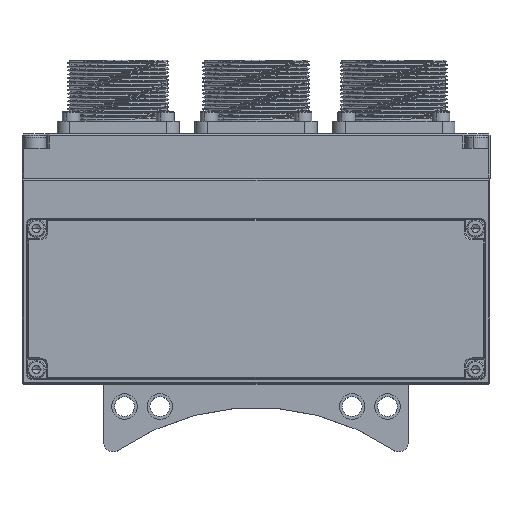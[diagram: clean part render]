
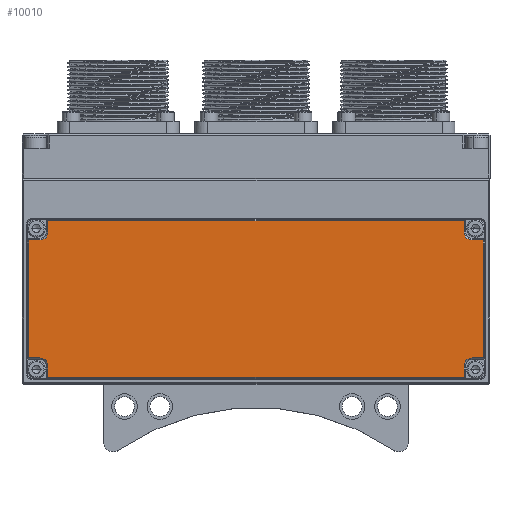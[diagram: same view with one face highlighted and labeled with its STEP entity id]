
A CAD part, top view. The second image highlights one B-rep face of the part: STEP entity #10010.
In plain terms, the highlighted planar face has unit normal (0, 0, 1).
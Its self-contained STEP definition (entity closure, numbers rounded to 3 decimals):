
#2144 = EDGE_CURVE ( 'NONE', #36055, #83214, #93600, .T. ) ;
#2352 = EDGE_CURVE ( 'NONE', #65843, #19593, #34446, .T. ) ;
#2982 = DIRECTION ( 'NONE',  ( -1., 0., 0. ) ) ;
#3405 = VECTOR ( 'NONE', #56512, 1000. ) ;
#3784 = VERTEX_POINT ( 'NONE', #63940 ) ;
#4144 = EDGE_CURVE ( 'NONE', #19593, #88438, #60435, .T. ) ;
#4613 = VECTOR ( 'NONE', #91970, 1000. ) ;
#6639 = CARTESIAN_POINT ( 'NONE',  ( 17.234, -4.882, 28. ) ) ;
#6796 = CARTESIAN_POINT ( 'NONE',  ( -118.566, 37.918, 28. ) ) ;
#8567 = VECTOR ( 'NONE', #20586, 1000. ) ;
#8722 = VECTOR ( 'NONE', #51270, 1000. ) ;
#8916 = CARTESIAN_POINT ( 'NONE',  ( -47.666, 37.918, 28. ) ) ;
#9422 = AXIS2_PLACEMENT_3D ( 'NONE', #36406, #52874, #86242 ) ;
#10010 = ADVANCED_FACE ( 'NONE', ( #87053 ), #61710, .F. ) ;
#10392 = EDGE_CURVE ( 'NONE', #83214, #19005, #42475, .T. ) ;
#12124 = EDGE_CURVE ( 'NONE', #88298, #71182, #49979, .T. ) ;
#12303 = AXIS2_PLACEMENT_3D ( 'NONE', #23748, #49060, #90126 ) ;
#12765 = ORIENTED_EDGE ( 'NONE', *, *, #97932, .T. ) ;
#13055 = ORIENTED_EDGE ( 'NONE', *, *, #58601, .T. ) ;
#16244 = EDGE_LOOP ( 'NONE', ( #26265, #72614, #84025, #13055, #64041, #35355, #92813, #12765, #18524, #51164, #28109, #100813, #63850, #35142, #22989, #20720 ) ) ;
#17145 = VECTOR ( 'NONE', #46261, 1000. ) ;
#17176 = CARTESIAN_POINT ( 'NONE',  ( 17.734, -4.882, 28. ) ) ;
#17214 = AXIS2_PLACEMENT_3D ( 'NONE', #87295, #78189, #53231 ) ;
#17749 = CARTESIAN_POINT ( 'NONE',  ( 19.734, 1.118, 28. ) ) ;
#17758 = CARTESIAN_POINT ( 'NONE',  ( -112.566, 43.918, 28. ) ) ;
#18524 = ORIENTED_EDGE ( 'NONE', *, *, #35432, .T. ) ;
#19005 = VERTEX_POINT ( 'NONE', #17758 ) ;
#19054 = CARTESIAN_POINT ( 'NONE',  ( 19.734, 40.418, 28. ) ) ;
#19593 = VERTEX_POINT ( 'NONE', #79576 ) ;
#20586 = DIRECTION ( 'NONE',  ( 1., 0., 0. ) ) ;
#20720 = ORIENTED_EDGE ( 'NONE', *, *, #31226, .T. ) ;
#22989 = ORIENTED_EDGE ( 'NONE', *, *, #10392, .T. ) ;
#23598 = VERTEX_POINT ( 'NONE', #65059 ) ;
#23748 = CARTESIAN_POINT ( 'NONE',  ( -115.066, -1.382, 28. ) ) ;
#24199 = DIRECTION ( 'NONE',  ( -1., 0., 0. ) ) ;
#24785 = CARTESIAN_POINT ( 'NONE',  ( 17.234, 40.418, 28. ) ) ;
#25429 = VECTOR ( 'NONE', #96864, 1000. ) ;
#26265 = ORIENTED_EDGE ( 'NONE', *, *, #12124, .T. ) ;
#28109 = ORIENTED_EDGE ( 'NONE', *, *, #31573, .T. ) ;
#28653 = EDGE_CURVE ( 'NONE', #71182, #35001, #77165, .T. ) ;
#30187 = CARTESIAN_POINT ( 'NONE',  ( 19.734, -1.382, 28. ) ) ;
#30287 = EDGE_CURVE ( 'NONE', #88438, #74490, #33639, .T. ) ;
#31226 = EDGE_CURVE ( 'NONE', #19005, #88298, #83310, .T. ) ;
#31573 = EDGE_CURVE ( 'NONE', #23598, #108576, #66147, .T. ) ;
#32043 = VECTOR ( 'NONE', #65724, 1000. ) ;
#33639 = LINE ( 'NONE', #17176, #8722 ) ;
#34446 = CIRCLE ( 'NONE', #12303, 2.5 ) ;
#35001 = VERTEX_POINT ( 'NONE', #6796 ) ;
#35142 = ORIENTED_EDGE ( 'NONE', *, *, #2144, .T. ) ;
#35355 = ORIENTED_EDGE ( 'NONE', *, *, #4144, .T. ) ;
#35432 = EDGE_CURVE ( 'NONE', #3784, #51824, #48338, .T. ) ;
#35605 = EDGE_CURVE ( 'NONE', #108576, #38315, #83850, .T. ) ;
#36055 = VERTEX_POINT ( 'NONE', #24785 ) ;
#36406 = CARTESIAN_POINT ( 'NONE',  ( -47.666, 19.518, 28. ) ) ;
#37044 = DIRECTION ( 'NONE',  ( 0., 0., -1. ) ) ;
#38315 = VERTEX_POINT ( 'NONE', #61823 ) ;
#39712 = CARTESIAN_POINT ( 'NONE',  ( 23.234, 38.418, 28. ) ) ;
#39993 = LINE ( 'NONE', #62442, #8567 ) ;
#41792 = DIRECTION ( 'NONE',  ( -1., 0., 0. ) ) ;
#42475 = LINE ( 'NONE', #66406, #47714 ) ;
#46261 = DIRECTION ( 'NONE',  ( 0., -1., 0. ) ) ;
#47714 = VECTOR ( 'NONE', #24199, 1000. ) ;
#48338 = CIRCLE ( 'NONE', #48346, 2.5 ) ;
#48346 = AXIS2_PLACEMENT_3D ( 'NONE', #30187, #88811, #97980 ) ;
#49060 = DIRECTION ( 'NONE',  ( 0., 0., -1. ) ) ;
#49836 = CARTESIAN_POINT ( 'NONE',  ( -47.666, 37.918, 28. ) ) ;
#49979 = CIRCLE ( 'NONE', #17214, 2.5 ) ;
#51164 = ORIENTED_EDGE ( 'NONE', *, *, #102863, .T. ) ;
#51270 = DIRECTION ( 'NONE',  ( 1., 0., 0. ) ) ;
#51824 = VERTEX_POINT ( 'NONE', #17749 ) ;
#52874 = DIRECTION ( 'NONE',  ( 0., 0., -1. ) ) ;
#53231 = DIRECTION ( 'NONE',  ( -1., 0., 0. ) ) ;
#53750 = CARTESIAN_POINT ( 'NONE',  ( 17.234, 19.518, 28. ) ) ;
#54505 = LINE ( 'NONE', #106729, #3405 ) ;
#56512 = DIRECTION ( 'NONE',  ( 0., -1., 0. ) ) ;
#57047 = VERTEX_POINT ( 'NONE', #97408 ) ;
#58601 = EDGE_CURVE ( 'NONE', #57047, #65843, #39993, .T. ) ;
#60435 = LINE ( 'NONE', #79982, #17145 ) ;
#61450 = CARTESIAN_POINT ( 'NONE',  ( -112.566, 40.418, 28. ) ) ;
#61710 = PLANE ( 'NONE',  #9422 ) ;
#61823 = CARTESIAN_POINT ( 'NONE',  ( 19.734, 37.918, 28. ) ) ;
#62345 = VECTOR ( 'NONE', #88137, 1000. ) ;
#62442 = CARTESIAN_POINT ( 'NONE',  ( -47.666, 1.118, 28. ) ) ;
#63850 = ORIENTED_EDGE ( 'NONE', *, *, #98587, .T. ) ;
#63940 = CARTESIAN_POINT ( 'NONE',  ( 17.234, -1.382, 28. ) ) ;
#64041 = ORIENTED_EDGE ( 'NONE', *, *, #2352, .T. ) ;
#65059 = CARTESIAN_POINT ( 'NONE',  ( 23.234, 1.118, 28. ) ) ;
#65654 = CARTESIAN_POINT ( 'NONE',  ( -47.666, 1.118, 28. ) ) ;
#65724 = DIRECTION ( 'NONE',  ( 0., 1., 0. ) ) ;
#65843 = VERTEX_POINT ( 'NONE', #88796 ) ;
#66147 = LINE ( 'NONE', #39712, #32043 ) ;
#66406 = CARTESIAN_POINT ( 'NONE',  ( -113.066, 43.918, 28. ) ) ;
#67529 = DIRECTION ( 'NONE',  ( -1., 0., 0. ) ) ;
#67596 = CARTESIAN_POINT ( 'NONE',  ( 17.234, 43.918, 28. ) ) ;
#68163 = VECTOR ( 'NONE', #108559, 1000. ) ;
#69488 = AXIS2_PLACEMENT_3D ( 'NONE', #19054, #37044, #2982 ) ;
#71182 = VERTEX_POINT ( 'NONE', #105760 ) ;
#72614 = ORIENTED_EDGE ( 'NONE', *, *, #28653, .T. ) ;
#73285 = VECTOR ( 'NONE', #41792, 1000. ) ;
#73309 = VECTOR ( 'NONE', #67529, 1000. ) ;
#74490 = VERTEX_POINT ( 'NONE', #6639 ) ;
#77165 = LINE ( 'NONE', #49836, #73285 ) ;
#77307 = LINE ( 'NONE', #65654, #68163 ) ;
#78014 = LINE ( 'NONE', #53750, #62345 ) ;
#78189 = DIRECTION ( 'NONE',  ( 0., 0., -1. ) ) ;
#79576 = CARTESIAN_POINT ( 'NONE',  ( -112.566, -1.382, 28. ) ) ;
#79982 = CARTESIAN_POINT ( 'NONE',  ( -112.566, 19.518, 28. ) ) ;
#83214 = VERTEX_POINT ( 'NONE', #67596 ) ;
#83310 = LINE ( 'NONE', #100074, #4613 ) ;
#83640 = EDGE_CURVE ( 'NONE', #35001, #57047, #54505, .T. ) ;
#83850 = LINE ( 'NONE', #8916, #73309 ) ;
#84025 = ORIENTED_EDGE ( 'NONE', *, *, #83640, .T. ) ;
#86242 = DIRECTION ( 'NONE',  ( -1., 0., 0. ) ) ;
#87053 = FACE_OUTER_BOUND ( 'NONE', #16244, .T. ) ;
#87295 = CARTESIAN_POINT ( 'NONE',  ( -115.066, 40.418, 28. ) ) ;
#87839 = CARTESIAN_POINT ( 'NONE',  ( 23.234, 37.918, 28. ) ) ;
#88137 = DIRECTION ( 'NONE',  ( 0., 1., 0. ) ) ;
#88298 = VERTEX_POINT ( 'NONE', #61450 ) ;
#88438 = VERTEX_POINT ( 'NONE', #89221 ) ;
#88796 = CARTESIAN_POINT ( 'NONE',  ( -115.066, 1.118, 28. ) ) ;
#88811 = DIRECTION ( 'NONE',  ( 0., 0., -1. ) ) ;
#89221 = CARTESIAN_POINT ( 'NONE',  ( -112.566, -4.882, 28. ) ) ;
#90126 = DIRECTION ( 'NONE',  ( -1., 0., 0. ) ) ;
#91970 = DIRECTION ( 'NONE',  ( 0., -1., 0. ) ) ;
#92813 = ORIENTED_EDGE ( 'NONE', *, *, #30287, .T. ) ;
#93600 = LINE ( 'NONE', #97948, #25429 ) ;
#96864 = DIRECTION ( 'NONE',  ( 0., 1., 0. ) ) ;
#97408 = CARTESIAN_POINT ( 'NONE',  ( -118.566, 1.118, 28. ) ) ;
#97932 = EDGE_CURVE ( 'NONE', #74490, #3784, #78014, .T. ) ;
#97948 = CARTESIAN_POINT ( 'NONE',  ( 17.234, 19.518, 28. ) ) ;
#97980 = DIRECTION ( 'NONE',  ( -1., 0., 0. ) ) ;
#98587 = EDGE_CURVE ( 'NONE', #38315, #36055, #98952, .T. ) ;
#98952 = CIRCLE ( 'NONE', #69488, 2.5 ) ;
#100074 = CARTESIAN_POINT ( 'NONE',  ( -112.566, 19.518, 28. ) ) ;
#100813 = ORIENTED_EDGE ( 'NONE', *, *, #35605, .T. ) ;
#102863 = EDGE_CURVE ( 'NONE', #51824, #23598, #77307, .T. ) ;
#105760 = CARTESIAN_POINT ( 'NONE',  ( -115.066, 37.918, 28. ) ) ;
#106729 = CARTESIAN_POINT ( 'NONE',  ( -118.566, 0.618, 28. ) ) ;
#108559 = DIRECTION ( 'NONE',  ( 1., 0., 0. ) ) ;
#108576 = VERTEX_POINT ( 'NONE', #87839 ) ;
